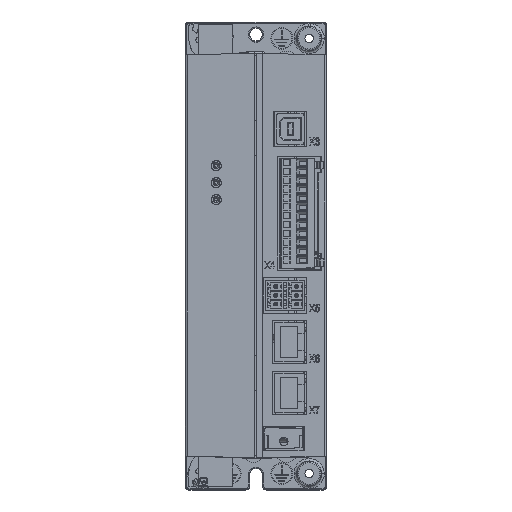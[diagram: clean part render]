
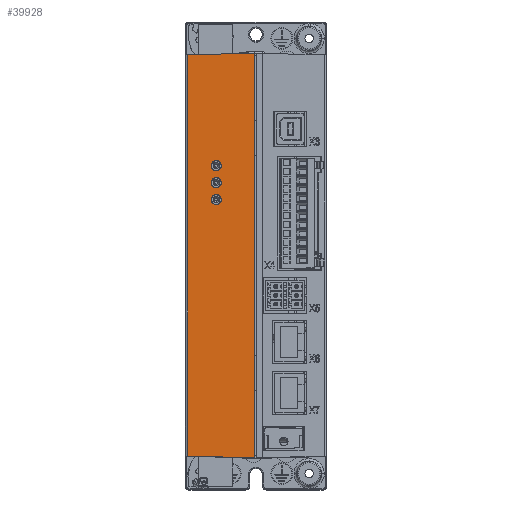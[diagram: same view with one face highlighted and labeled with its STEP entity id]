
A CAD part, top view. The second image highlights one B-rep face of the part: STEP entity #39928.
In plain terms, the highlighted planar face has unit normal (-0.026, 0, 1).
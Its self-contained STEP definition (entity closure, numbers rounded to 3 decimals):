
#20972 = VERTEX_POINT ( 'NONE', #213826 ) ;
#20988 = VERTEX_POINT ( 'NONE', #213890 ) ;
#21064 = VERTEX_POINT ( 'NONE', #214166 ) ;
#21067 = EDGE_CURVE ( 'NONE', #20988, #20972, #214262, .T. ) ;
#21097 = VERTEX_POINT ( 'NONE', #214601 ) ;
#21125 = VERTEX_POINT ( 'NONE', #214917 ) ;
#21139 = EDGE_CURVE ( 'NONE', #21262, #21125, #214875, .T. ) ;
#21184 = EDGE_CURVE ( 'NONE', #21097, #21064, #215217, .T. ) ;
#21262 = VERTEX_POINT ( 'NONE', #215483 ) ;
#29056 = VERTEX_POINT ( 'NONE', #133742 ) ;
#29136 = EDGE_CURVE ( 'NONE', #29056, #29192, #133645, .T. ) ;
#29192 = VERTEX_POINT ( 'NONE', #134237 ) ;
#39485 = VERTEX_POINT ( 'NONE', #169849 ) ;
#39657 = VERTEX_POINT ( 'NONE', #170479 ) ;
#39665 = EDGE_CURVE ( 'NONE', #39657, #39485, #170459, .T. ) ;
#39921 = EDGE_CURVE ( 'NONE', #39657, #29192, #171276, .T. ) ;
#39928 = ADVANCED_FACE ( 'NONE', ( #171427, #171434, #171327, #171287 ), #171428, .T. ) ;
#39930 = EDGE_LOOP ( 'NONE', ( #39984, #39981, #39990, #40050 ) ) ;
#39941 = ORIENTED_EDGE ( 'NONE', *, *, #21184, .T. ) ;
#39945 = EDGE_CURVE ( 'NONE', #39485, #29056, #171510, .T. ) ;
#39955 = EDGE_CURVE ( 'NONE', #21125, #21262, #171590, .T. ) ;
#39981 = ORIENTED_EDGE ( 'NONE', *, *, #39665, .T. ) ;
#39984 = ORIENTED_EDGE ( 'NONE', *, *, #39921, .F. ) ;
#39987 = EDGE_LOOP ( 'NONE', ( #40010, #39994 ) ) ;
#39990 = ORIENTED_EDGE ( 'NONE', *, *, #39945, .T. ) ;
#39994 = ORIENTED_EDGE ( 'NONE', *, *, #39998, .T. ) ;
#39998 = EDGE_CURVE ( 'NONE', #20972, #20988, #171602, .T. ) ;
#40004 = EDGE_CURVE ( 'NONE', #21064, #21097, #171689, .T. ) ;
#40010 = ORIENTED_EDGE ( 'NONE', *, *, #21067, .T. ) ;
#40013 = ORIENTED_EDGE ( 'NONE', *, *, #40004, .T. ) ;
#40014 = EDGE_LOOP ( 'NONE', ( #39941, #40013 ) ) ;
#40050 = ORIENTED_EDGE ( 'NONE', *, *, #29136, .T. ) ;
#40093 = EDGE_LOOP ( 'NONE', ( #40095, #40096 ) ) ;
#40095 = ORIENTED_EDGE ( 'NONE', *, *, #21139, .T. ) ;
#40096 = ORIENTED_EDGE ( 'NONE', *, *, #39955, .T. ) ;
#133611 = DIRECTION ( 'NONE',  ( 0.999, -0.026, 0.026 ) ) ;
#133612 = VECTOR ( 'NONE', #133611, 1000. ) ;
#133644 = CARTESIAN_POINT ( 'NONE',  ( 0.019, -79.267, 116.767 ) ) ;
#133645 = LINE ( 'NONE', #133644, #133612 ) ;
#133742 = CARTESIAN_POINT ( 'NONE',  ( 0.974, -79.292, 116.792 ) ) ;
#134237 = CARTESIAN_POINT ( 'NONE',  ( 27.5, -79.987, 117.487 ) ) ;
#169849 = CARTESIAN_POINT ( 'NONE',  ( 0.974, 79.292, 116.792 ) ) ;
#170454 = DIRECTION ( 'NONE',  ( -0.999, -0.026, -0.026 ) ) ;
#170456 = VECTOR ( 'NONE', #170454, 1000. ) ;
#170458 = CARTESIAN_POINT ( 'NONE',  ( 28., 80., 117.5 ) ) ;
#170459 = LINE ( 'NONE', #170458, #170456 ) ;
#170479 = CARTESIAN_POINT ( 'NONE',  ( 27.5, 79.987, 117.487 ) ) ;
#171274 = CARTESIAN_POINT ( 'NONE',  ( 27.5, -80., 117.487 ) ) ;
#171276 = LINE ( 'NONE', #171274, #171307 ) ;
#171287 = FACE_BOUND ( 'NONE', #40093, .T. ) ;
#171307 = VECTOR ( 'NONE', #171429, 1000. ) ;
#171327 = FACE_BOUND ( 'NONE', #40014, .T. ) ;
#171407 = DIRECTION ( 'NONE',  ( 1., 0., 0.026 ) ) ;
#171417 = AXIS2_PLACEMENT_3D ( 'NONE', #171422, #171430, #171407 ) ;
#171422 = CARTESIAN_POINT ( 'NONE',  ( 28., -80., 117.5 ) ) ;
#171427 = FACE_OUTER_BOUND ( 'NONE', #39930, .T. ) ;
#171428 = PLANE ( 'NONE',  #171417 ) ;
#171429 = DIRECTION ( 'NONE',  ( 0., -1., 0. ) ) ;
#171430 = DIRECTION ( 'NONE',  ( -0.026, 0., 1. ) ) ;
#171434 = FACE_BOUND ( 'NONE', #39987, .T. ) ;
#171501 = DIRECTION ( 'NONE',  ( 0., -1., 0. ) ) ;
#171502 = VECTOR ( 'NONE', #171501, 1000. ) ;
#171508 = CARTESIAN_POINT ( 'NONE',  ( 0.974, -79.267, 116.792 ) ) ;
#171510 = LINE ( 'NONE', #171508, #171502 ) ;
#171577 = CARTESIAN_POINT ( 'NONE',  ( 14.291, 35.5, 117.141 ) ) ;
#171578 = CARTESIAN_POINT ( 'NONE',  ( 14.291, 39.478, 117.141 ) ) ;
#171580 = CARTESIAN_POINT ( 'NONE',  ( 10.312, 39.478, 117.037 ) ) ;
#171581 = CARTESIAN_POINT ( 'NONE',  ( 10.312, 35.5, 117.037 ) ) ;
#171590 =( BOUNDED_CURVE ( )  B_SPLINE_CURVE ( 3, ( #171581, #171580, #171578, #171577 ),
 .UNSPECIFIED., .F., .T. ) 
 B_SPLINE_CURVE_WITH_KNOTS ( ( 4, 4 ),
 ( 3.142, 6.283 ),
 .UNSPECIFIED. ) 
 CURVE ( )  GEOMETRIC_REPRESENTATION_ITEM ( )  RATIONAL_B_SPLINE_CURVE ( ( 1., 0.333, 0.333, 1. ) ) 
 REPRESENTATION_ITEM ( '' )  );
#171602 =( BOUNDED_CURVE ( )  B_SPLINE_CURVE ( 3, ( #171723, #171722, #171720, #171718 ),
 .UNSPECIFIED., .F., .F. ) 
 B_SPLINE_CURVE_WITH_KNOTS ( ( 4, 4 ),
 ( 3.142, 6.283 ),
 .UNSPECIFIED. ) 
 CURVE ( )  GEOMETRIC_REPRESENTATION_ITEM ( )  RATIONAL_B_SPLINE_CURVE ( ( 1., 0.333, 0.333, 1. ) ) 
 REPRESENTATION_ITEM ( '' )  );
#171676 = CARTESIAN_POINT ( 'NONE',  ( 14.291, 28.8, 117.141 ) ) ;
#171677 = CARTESIAN_POINT ( 'NONE',  ( 14.291, 32.778, 117.141 ) ) ;
#171678 = CARTESIAN_POINT ( 'NONE',  ( 10.312, 32.778, 117.037 ) ) ;
#171679 = CARTESIAN_POINT ( 'NONE',  ( 10.312, 28.8, 117.037 ) ) ;
#171689 =( BOUNDED_CURVE ( )  B_SPLINE_CURVE ( 3, ( #171679, #171678, #171677, #171676 ),
 .UNSPECIFIED., .F., .T. ) 
 B_SPLINE_CURVE_WITH_KNOTS ( ( 4, 4 ),
 ( 3.142, 6.283 ),
 .UNSPECIFIED. ) 
 CURVE ( )  GEOMETRIC_REPRESENTATION_ITEM ( )  RATIONAL_B_SPLINE_CURVE ( ( 1., 0.333, 0.333, 1. ) ) 
 REPRESENTATION_ITEM ( '' )  );
#171718 = CARTESIAN_POINT ( 'NONE',  ( 14.291, 22.1, 117.141 ) ) ;
#171720 = CARTESIAN_POINT ( 'NONE',  ( 14.291, 26.078, 117.141 ) ) ;
#171722 = CARTESIAN_POINT ( 'NONE',  ( 10.312, 26.078, 117.037 ) ) ;
#171723 = CARTESIAN_POINT ( 'NONE',  ( 10.312, 22.1, 117.037 ) ) ;
#213826 = CARTESIAN_POINT ( 'NONE',  ( 10.312, 22.1, 117.037 ) ) ;
#213890 = CARTESIAN_POINT ( 'NONE',  ( 14.291, 22.1, 117.141 ) ) ;
#214166 = CARTESIAN_POINT ( 'NONE',  ( 10.312, 28.8, 117.037 ) ) ;
#214234 = CARTESIAN_POINT ( 'NONE',  ( 10.312, 22.1, 117.037 ) ) ;
#214236 = CARTESIAN_POINT ( 'NONE',  ( 10.312, 18.122, 117.037 ) ) ;
#214238 = CARTESIAN_POINT ( 'NONE',  ( 14.291, 18.122, 117.141 ) ) ;
#214241 = CARTESIAN_POINT ( 'NONE',  ( 14.291, 22.1, 117.141 ) ) ;
#214262 =( BOUNDED_CURVE ( )  B_SPLINE_CURVE ( 3, ( #214241, #214238, #214236, #214234 ),
 .UNSPECIFIED., .F., .T. ) 
 B_SPLINE_CURVE_WITH_KNOTS ( ( 4, 4 ),
 ( 0., 3.142 ),
 .UNSPECIFIED. ) 
 CURVE ( )  GEOMETRIC_REPRESENTATION_ITEM ( )  RATIONAL_B_SPLINE_CURVE ( ( 1., 0.333, 0.333, 1. ) ) 
 REPRESENTATION_ITEM ( '' )  );
#214601 = CARTESIAN_POINT ( 'NONE',  ( 14.291, 28.8, 117.141 ) ) ;
#214875 =( BOUNDED_CURVE ( )  B_SPLINE_CURVE ( 3, ( #215020, #215018, #215016, #215014 ),
 .UNSPECIFIED., .F., .T. ) 
 B_SPLINE_CURVE_WITH_KNOTS ( ( 4, 4 ),
 ( 0., 3.142 ),
 .UNSPECIFIED. ) 
 CURVE ( )  GEOMETRIC_REPRESENTATION_ITEM ( )  RATIONAL_B_SPLINE_CURVE ( ( 1., 0.333, 0.333, 1. ) ) 
 REPRESENTATION_ITEM ( '' )  );
#214917 = CARTESIAN_POINT ( 'NONE',  ( 10.312, 35.5, 117.037 ) ) ;
#215014 = CARTESIAN_POINT ( 'NONE',  ( 10.312, 35.5, 117.037 ) ) ;
#215016 = CARTESIAN_POINT ( 'NONE',  ( 10.312, 31.522, 117.037 ) ) ;
#215018 = CARTESIAN_POINT ( 'NONE',  ( 14.291, 31.522, 117.141 ) ) ;
#215020 = CARTESIAN_POINT ( 'NONE',  ( 14.291, 35.5, 117.141 ) ) ;
#215198 = CARTESIAN_POINT ( 'NONE',  ( 10.312, 28.8, 117.037 ) ) ;
#215200 = CARTESIAN_POINT ( 'NONE',  ( 10.312, 24.822, 117.037 ) ) ;
#215202 = CARTESIAN_POINT ( 'NONE',  ( 14.291, 24.822, 117.141 ) ) ;
#215206 = CARTESIAN_POINT ( 'NONE',  ( 14.291, 28.8, 117.141 ) ) ;
#215217 =( BOUNDED_CURVE ( )  B_SPLINE_CURVE ( 3, ( #215206, #215202, #215200, #215198 ),
 .UNSPECIFIED., .F., .T. ) 
 B_SPLINE_CURVE_WITH_KNOTS ( ( 4, 4 ),
 ( 0., 3.142 ),
 .UNSPECIFIED. ) 
 CURVE ( )  GEOMETRIC_REPRESENTATION_ITEM ( )  RATIONAL_B_SPLINE_CURVE ( ( 1., 0.333, 0.333, 1. ) ) 
 REPRESENTATION_ITEM ( '' )  );
#215483 = CARTESIAN_POINT ( 'NONE',  ( 14.291, 35.5, 117.141 ) ) ;
